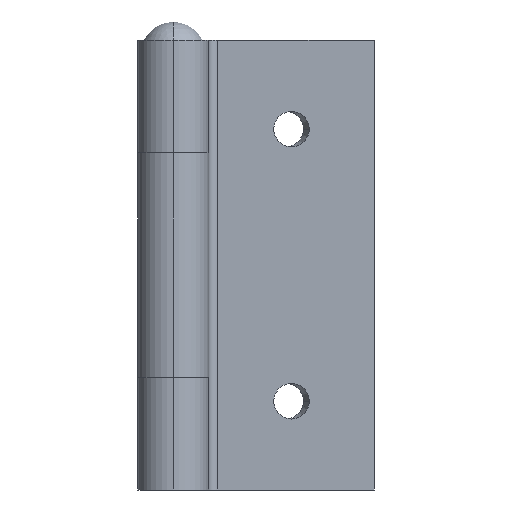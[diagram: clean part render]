
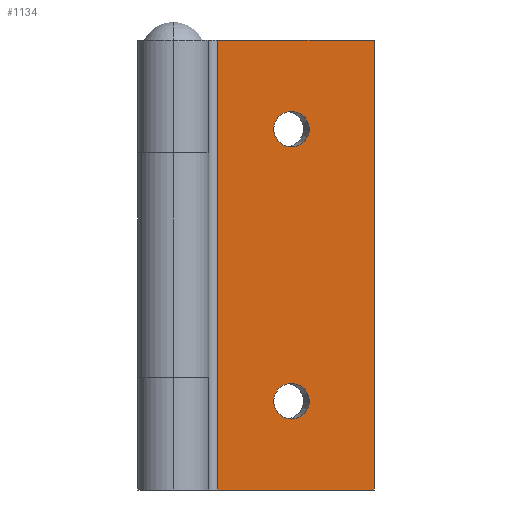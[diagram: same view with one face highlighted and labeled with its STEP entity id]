
A CAD part, left-side view. The second image highlights one B-rep face of the part: STEP entity #1134.
In plain terms, the highlighted planar face has unit normal (-1, 0, 0).
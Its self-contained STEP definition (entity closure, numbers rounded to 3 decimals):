
#249=CARTESIAN_POINT('',(25.,-14.,30.5));
#250=VERTEX_POINT('',#249);
#266=CARTESIAN_POINT('',(25.,-11.,30.5));
#267=VERTEX_POINT('',#266);
#274=CARTESIAN_POINT('',(25.,-12.5,30.5));
#275=DIRECTION('',(1.0,0.0,0.0));
#276=DIRECTION('',(0.0,-1.0,0.0));
#277=AXIS2_PLACEMENT_3D('',#274,#275,#276);
#278=CIRCLE('',#277,1.5);
#279=EDGE_CURVE('',#250,#267,#278,.T.);
#291=CARTESIAN_POINT('',(25.,-14.,7.5));
#292=VERTEX_POINT('',#291);
#308=CARTESIAN_POINT('',(25.,-11.,7.5));
#309=VERTEX_POINT('',#308);
#316=CARTESIAN_POINT('',(25.,-12.5,7.5));
#317=DIRECTION('',(1.0,0.0,0.0));
#318=DIRECTION('',(0.0,-1.0,0.0));
#319=AXIS2_PLACEMENT_3D('',#316,#317,#318);
#320=CIRCLE('',#319,1.5);
#321=EDGE_CURVE('',#292,#309,#320,.T.);
#636=CARTESIAN_POINT('',(25.,-12.5,7.5));
#637=DIRECTION('',(1.0,0.0,0.0));
#638=DIRECTION('',(0.0,-1.0,0.0));
#639=AXIS2_PLACEMENT_3D('',#636,#637,#638);
#640=CIRCLE('',#639,1.5);
#641=EDGE_CURVE('',#309,#292,#640,.T.);
#660=CARTESIAN_POINT('',(25.,-12.5,30.5));
#661=DIRECTION('',(1.0,0.0,0.0));
#662=DIRECTION('',(0.0,-1.0,0.0));
#663=AXIS2_PLACEMENT_3D('',#660,#661,#662);
#664=CIRCLE('',#663,1.5);
#665=EDGE_CURVE('',#267,#250,#664,.T.);
#814=CARTESIAN_POINT('',(25.,-19.5,0.0));
#815=VERTEX_POINT('',#814);
#822=CARTESIAN_POINT('',(25.,-6.25,0.0));
#823=VERTEX_POINT('',#822);
#824=CARTESIAN_POINT('',(25.,-6.25,0.0));
#825=DIRECTION('',(0.0,-1.0,0.0));
#826=VECTOR('',#825,13.25);
#827=LINE('',#824,#826);
#828=EDGE_CURVE('',#823,#815,#827,.T.);
#1084=CARTESIAN_POINT('',(25.,-19.5,38.0));
#1085=VERTEX_POINT('',#1084);
#1092=CARTESIAN_POINT('',(25.,-19.5,0.0));
#1093=DIRECTION('',(0.0,0.0,1.0));
#1094=VECTOR('',#1093,38.0);
#1095=LINE('',#1092,#1094);
#1096=EDGE_CURVE('',#815,#1085,#1095,.T.);
#1103=CARTESIAN_POINT('',(25.,-19.5,0.0));
#1104=DIRECTION('',(-1.0,0.0,0.0));
#1105=DIRECTION('',(0.0,0.0,1.0));
#1106=AXIS2_PLACEMENT_3D('',#1103,#1104,#1105);
#1107=PLANE('',#1106);
#1108=CARTESIAN_POINT('',(25.,-6.25,38.0));
#1109=VERTEX_POINT('',#1108);
#1110=CARTESIAN_POINT('',(25.,-19.5,38.0));
#1111=DIRECTION('',(0.0,1.0,0.0));
#1112=VECTOR('',#1111,13.25);
#1113=LINE('',#1110,#1112);
#1114=EDGE_CURVE('',#1085,#1109,#1113,.T.);
#1115=ORIENTED_EDGE('',*,*,#1114,.T.);
#1116=CARTESIAN_POINT('',(25.,-6.25,0.0));
#1117=DIRECTION('',(0.0,0.0,1.0));
#1118=VECTOR('',#1117,38.0);
#1119=LINE('',#1116,#1118);
#1120=EDGE_CURVE('',#823,#1109,#1119,.T.);
#1121=ORIENTED_EDGE('',*,*,#1120,.F.);
#1122=ORIENTED_EDGE('',*,*,#828,.T.);
#1123=ORIENTED_EDGE('',*,*,#1096,.T.);
#1124=EDGE_LOOP('',(#1115,#1121,#1122,#1123));
#1125=FACE_OUTER_BOUND('',#1124,.T.);
#1126=ORIENTED_EDGE('',*,*,#321,.T.);
#1127=ORIENTED_EDGE('',*,*,#641,.T.);
#1128=EDGE_LOOP('',(#1126,#1127));
#1129=FACE_BOUND('',#1128,.T.);
#1130=ORIENTED_EDGE('',*,*,#279,.T.);
#1131=ORIENTED_EDGE('',*,*,#665,.T.);
#1132=EDGE_LOOP('',(#1130,#1131));
#1133=FACE_BOUND('',#1132,.T.);
#1134=ADVANCED_FACE('',(#1125,#1129,#1133),#1107,.T.);
